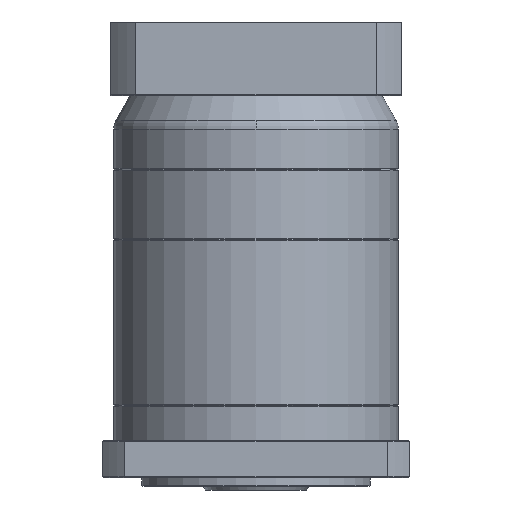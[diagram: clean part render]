
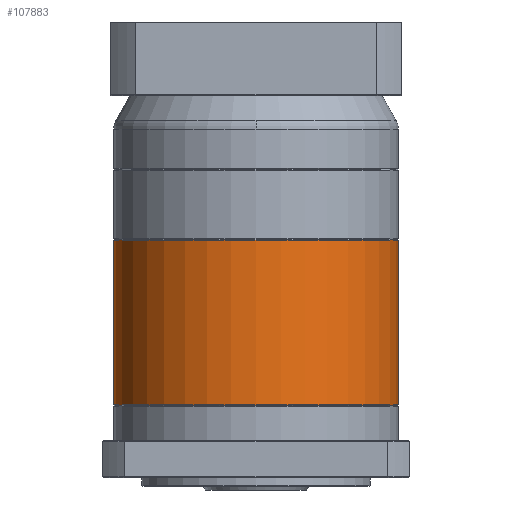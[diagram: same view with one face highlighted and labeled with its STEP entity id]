
A CAD part, front view. The second image highlights one B-rep face of the part: STEP entity #107883.
In plain terms, the highlighted cylindrical face has radius 81 mm (diameter 162 mm), a partial arc.
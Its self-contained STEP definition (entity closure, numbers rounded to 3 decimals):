
#218 = EDGE_CURVE ( 'NONE', #74324, #24649, #27736, .T. ) ;
#1763 = CARTESIAN_POINT ( 'NONE',  ( -47.507, -5.561, 233.75 ) ) ;
#3630 = ORIENTED_EDGE ( 'NONE', *, *, #34981, .T. ) ;
#15423 = LINE ( 'NONE', #92306, #96078 ) ;
#16892 = EDGE_CURVE ( 'NONE', #74324, #19866, #47351, .T. ) ;
#19866 = VERTEX_POINT ( 'NONE', #116393 ) ;
#20110 = DIRECTION ( 'NONE',  ( 0., 0., -1. ) ) ;
#24649 = VERTEX_POINT ( 'NONE', #116554 ) ;
#27736 = LINE ( 'NONE', #43196, #57210 ) ;
#34981 = EDGE_CURVE ( 'NONE', #69186, #24649, #59180, .T. ) ;
#40456 = DIRECTION ( 'NONE',  ( -1., 0., 0. ) ) ;
#43196 = CARTESIAN_POINT ( 'NONE',  ( 33.493, -5.561, 233.75 ) ) ;
#47351 = CIRCLE ( 'NONE', #63521, 81. ) ;
#55933 = CYLINDRICAL_SURFACE ( 'NONE', #110348, 81. ) ;
#57210 = VECTOR ( 'NONE', #63113, 1000. ) ;
#59180 = CIRCLE ( 'NONE', #121441, 81. ) ;
#59880 = CARTESIAN_POINT ( 'NONE',  ( -47.507, -5.561, 233.25 ) ) ;
#63113 = DIRECTION ( 'NONE',  ( 0., 0., -1. ) ) ;
#63521 = AXIS2_PLACEMENT_3D ( 'NONE', #59880, #89692, #128693 ) ;
#69186 = VERTEX_POINT ( 'NONE', #101532 ) ;
#72918 = FACE_OUTER_BOUND ( 'NONE', #101115, .T. ) ;
#74324 = VERTEX_POINT ( 'NONE', #101443 ) ;
#77483 = DIRECTION ( 'NONE',  ( -1., 0., 0. ) ) ;
#81410 = EDGE_CURVE ( 'NONE', #19866, #69186, #15423, .T. ) ;
#89692 = DIRECTION ( 'NONE',  ( 0., 0., -1. ) ) ;
#92306 = CARTESIAN_POINT ( 'NONE',  ( -128.507, -5.561, 233.75 ) ) ;
#93747 = ORIENTED_EDGE ( 'NONE', *, *, #16892, .T. ) ;
#96078 = VECTOR ( 'NONE', #111386, 1000. ) ;
#96657 = CARTESIAN_POINT ( 'NONE',  ( -47.507, -5.561, 139.75 ) ) ;
#97108 = DIRECTION ( 'NONE',  ( 0., 0., 1. ) ) ;
#101115 = EDGE_LOOP ( 'NONE', ( #127032, #93747, #123388, #3630 ) ) ;
#101443 = CARTESIAN_POINT ( 'NONE',  ( 33.493, -5.561, 233.25 ) ) ;
#101532 = CARTESIAN_POINT ( 'NONE',  ( -128.507, -5.561, 139.75 ) ) ;
#107883 = ADVANCED_FACE ( 'NONE', ( #72918 ), #55933, .T. ) ;
#110348 = AXIS2_PLACEMENT_3D ( 'NONE', #1763, #20110, #40456 ) ;
#111386 = DIRECTION ( 'NONE',  ( 0., 0., -1. ) ) ;
#116393 = CARTESIAN_POINT ( 'NONE',  ( -128.507, -5.561, 233.25 ) ) ;
#116554 = CARTESIAN_POINT ( 'NONE',  ( 33.493, -5.561, 139.75 ) ) ;
#121441 = AXIS2_PLACEMENT_3D ( 'NONE', #96657, #97108, #77483 ) ;
#123388 = ORIENTED_EDGE ( 'NONE', *, *, #81410, .T. ) ;
#127032 = ORIENTED_EDGE ( 'NONE', *, *, #218, .F. ) ;
#128693 = DIRECTION ( 'NONE',  ( -1., 0., 0. ) ) ;
